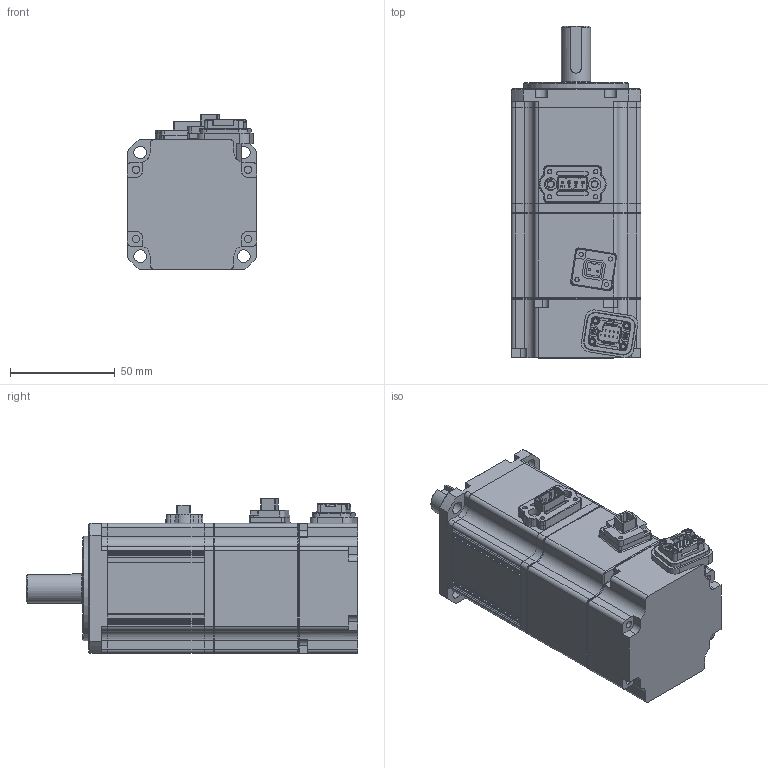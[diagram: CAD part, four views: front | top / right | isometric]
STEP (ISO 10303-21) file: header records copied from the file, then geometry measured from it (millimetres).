
FILE_DESCRIPTION(/* description */ (''),/* implementation_level */ '2;1');
FILE_NAME(/* name */ '\\EMN0D5F01\rp_inventor\RP Mechanical Design\P Series Files\P Series Step from ipt files\PM-FBL02AMK2.stp',/* time_stamp */ '2015-06-05T16:58:35-07:00',/* author */ ('jb17719'),/* organization */ (''),/* preprocessor_version */ 'ST-DEVELOPER v15.2',/* originating_system */ 'Autodesk Inventor 2014',/* authorisation */ '');
FILE_SCHEMA (('AUTOMOTIVE_DESIGN { 1 0 10303 214 3 1 1 }'));
Products named in the file (1): PM-FBL02AMK2.STEP
Bounding box: 62 x 158.5 x 73.8 mm (x, y, z)
Volume: 445672.7 mm3; surface area: 92219.2 mm2
Topology: 16 solids, 21 shells, 1678 faces, 4880 edges, 3286 vertices
Faces by surface type: plane 1075, cylinder 372, bspline 140, cone 54, torus 29, sphere 8
Full cylindrical faces by diameter (mm): 0.8 x9, 1 x2, 1.4 x4, 2 x18, 2.1 x14, 3 x14, 3.3 x1, 3.4 x1, 3.5 x8, 3.6 x8, 6 x6, 9.5 x1, 13 x1, 14 x1, 15 x1, 15.3 x1, 50 x1
Entity records: 67018 total; most frequent: CARTESIAN_POINT 23708, ORIENTED_EDGE 8991, DIRECTION 8267, EDGE_CURVE 4757, LINE 3309, VECTOR 3309, VERTEX_POINT 3278, AXIS2_PLACEMENT_3D 2479
